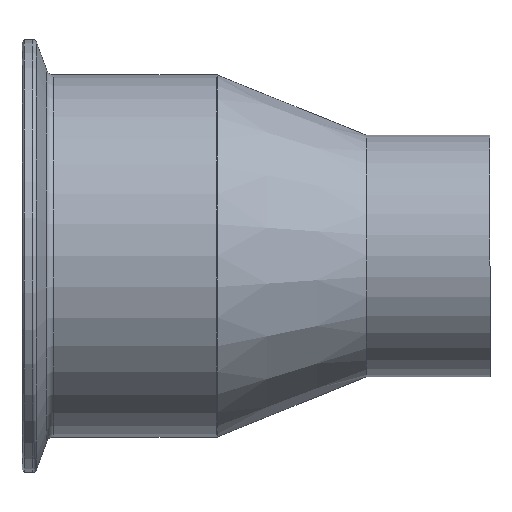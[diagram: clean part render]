
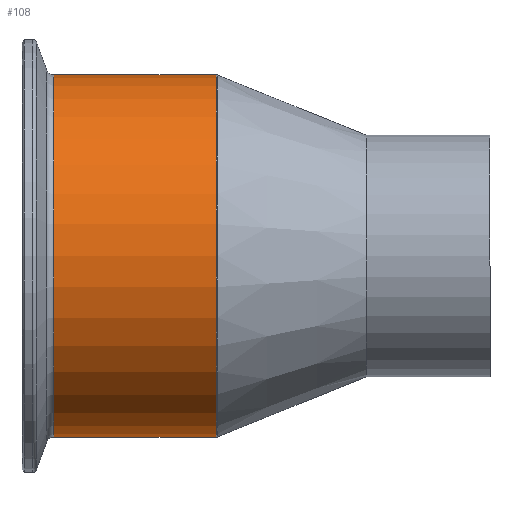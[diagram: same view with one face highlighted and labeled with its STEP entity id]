
A CAD part, top view. The second image highlights one B-rep face of the part: STEP entity #108.
In plain terms, the highlighted cylindrical face has radius 38.1 mm (diameter 76.2 mm), a partial arc.
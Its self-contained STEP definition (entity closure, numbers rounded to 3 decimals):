
#8 = ORIENTED_EDGE ( 'NONE', *, *, #688, .T. ) ;
#24 = ORIENTED_EDGE ( 'NONE', *, *, #229, .F. ) ;
#88 = AXIS2_PLACEMENT_3D ( 'NONE', #476, #798, #1109 ) ;
#95 = VECTOR ( 'NONE', #159, 1000. ) ;
#96 = CARTESIAN_POINT ( 'NONE',  ( -91.761, 38.1, 0. ) ) ;
#108 = ADVANCED_FACE ( 'NONE', ( #1036 ), #561, .T. ) ;
#133 = ORIENTED_EDGE ( 'NONE', *, *, #320, .T. ) ;
#159 = DIRECTION ( 'NONE',  ( 1., 0., 0. ) ) ;
#169 = CARTESIAN_POINT ( 'NONE',  ( 0., 38.1, 0. ) ) ;
#175 = AXIS2_PLACEMENT_3D ( 'NONE', #793, #799, #846 ) ;
#229 = EDGE_CURVE ( 'NONE', #465, #405, #710, .T. ) ;
#314 = DIRECTION ( 'NONE',  ( 1., 0., 0. ) ) ;
#320 = EDGE_CURVE ( 'NONE', #465, #623, #1058, .T. ) ;
#325 = CARTESIAN_POINT ( 'NONE',  ( -91.761, 0., 0. ) ) ;
#343 = LINE ( 'NONE', #529, #95 ) ;
#344 = EDGE_LOOP ( 'NONE', ( #133, #746, #8, #24 ) ) ;
#405 = VERTEX_POINT ( 'NONE', #826 ) ;
#406 = DIRECTION ( 'NONE',  ( 0., 1., 0. ) ) ;
#465 = VERTEX_POINT ( 'NONE', #96 ) ;
#474 = EDGE_CURVE ( 'NONE', #623, #788, #343, .T. ) ;
#476 = CARTESIAN_POINT ( 'NONE',  ( 0., 0., 0. ) ) ;
#495 = VECTOR ( 'NONE', #1075, 1000. ) ;
#529 = CARTESIAN_POINT ( 'NONE',  ( 0., -38.1, 0. ) ) ;
#561 = CYLINDRICAL_SURFACE ( 'NONE', #88, 38.1 ) ;
#623 = VERTEX_POINT ( 'NONE', #709 ) ;
#649 = CIRCLE ( 'NONE', #175, 38.1 ) ;
#674 = AXIS2_PLACEMENT_3D ( 'NONE', #325, #314, #406 ) ;
#688 = EDGE_CURVE ( 'NONE', #788, #405, #649, .T. ) ;
#701 = CARTESIAN_POINT ( 'NONE',  ( -57.589, -38.1, 0. ) ) ;
#709 = CARTESIAN_POINT ( 'NONE',  ( -91.761, -38.1, 0. ) ) ;
#710 = LINE ( 'NONE', #169, #495 ) ;
#746 = ORIENTED_EDGE ( 'NONE', *, *, #474, .T. ) ;
#788 = VERTEX_POINT ( 'NONE', #701 ) ;
#793 = CARTESIAN_POINT ( 'NONE',  ( -57.589, 0., 0. ) ) ;
#798 = DIRECTION ( 'NONE',  ( 1., 0., 0. ) ) ;
#799 = DIRECTION ( 'NONE',  ( -1., 0., 0. ) ) ;
#826 = CARTESIAN_POINT ( 'NONE',  ( -57.589, 38.1, 0. ) ) ;
#846 = DIRECTION ( 'NONE',  ( 0., -1., 0. ) ) ;
#1036 = FACE_OUTER_BOUND ( 'NONE', #344, .T. ) ;
#1058 = CIRCLE ( 'NONE', #674, 38.1 ) ;
#1075 = DIRECTION ( 'NONE',  ( 1., 0., 0. ) ) ;
#1109 = DIRECTION ( 'NONE',  ( 0., 1., 0. ) ) ;
